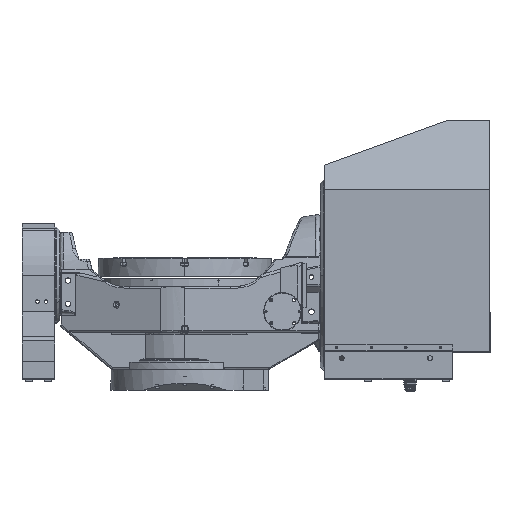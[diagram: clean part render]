
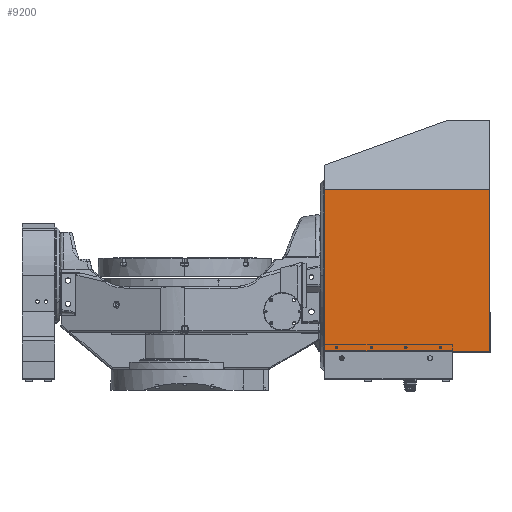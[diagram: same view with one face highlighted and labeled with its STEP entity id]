
A CAD part, top view. The second image highlights one B-rep face of the part: STEP entity #9200.
In plain terms, the highlighted planar face has unit normal (0, 0, 1).
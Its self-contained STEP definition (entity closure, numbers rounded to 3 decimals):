
#601 = EDGE_CURVE ( 'NONE', #70653, #28594, #20387, .T. ) ;
#637 = CIRCLE ( 'NONE', #57160, 3.5 ) ;
#1059 = DIRECTION ( 'NONE',  ( 0., 0., -1. ) ) ;
#1222 = DIRECTION ( 'NONE',  ( -1., 0., 0. ) ) ;
#1698 = EDGE_CURVE ( 'NONE', #18444, #27308, #33033, .T. ) ;
#1907 = CIRCLE ( 'NONE', #73151, 3.5 ) ;
#2275 = EDGE_LOOP ( 'NONE', ( #46743, #17383 ) ) ;
#2414 = ORIENTED_EDGE ( 'NONE', *, *, #33844, .T. ) ;
#3031 = LINE ( 'NONE', #49588, #72654 ) ;
#4437 = CIRCLE ( 'NONE', #26588, 3.5 ) ;
#4512 = VERTEX_POINT ( 'NONE', #75369 ) ;
#5238 = AXIS2_PLACEMENT_3D ( 'NONE', #16338, #5559, #10554 ) ;
#5388 = AXIS2_PLACEMENT_3D ( 'NONE', #14755, #55922, #38197 ) ;
#5559 = DIRECTION ( 'NONE',  ( 0., 0., -1. ) ) ;
#5974 = CARTESIAN_POINT ( 'NONE',  ( 733.4, 170., 448. ) ) ;
#7001 = FACE_BOUND ( 'NONE', #26870, .T. ) ;
#9200 = ADVANCED_FACE ( 'NONE', ( #37382, #13536, #54694, #7001, #25113 ), #13169, .F. ) ;
#9355 = CARTESIAN_POINT ( 'NONE',  ( 880.4, 158., 448. ) ) ;
#9740 = EDGE_LOOP ( 'NONE', ( #41637, #64604 ) ) ;
#10554 = DIRECTION ( 'NONE',  ( -1., 0., 0. ) ) ;
#11099 = VERTEX_POINT ( 'NONE', #21815 ) ;
#11274 = CIRCLE ( 'NONE', #54265, 3.5 ) ;
#11375 = CIRCLE ( 'NONE', #5238, 3.5 ) ;
#12488 = CARTESIAN_POINT ( 'NONE',  ( 433.4, 170., 448. ) ) ;
#13169 = PLANE ( 'NONE',  #47215 ) ;
#13536 = FACE_BOUND ( 'NONE', #9740, .T. ) ;
#14213 = AXIS2_PLACEMENT_3D ( 'NONE', #53762, #1059, #24556 ) ;
#14755 = CARTESIAN_POINT ( 'NONE',  ( 636.9, 170., 448. ) ) ;
#15812 = VERTEX_POINT ( 'NONE', #69354 ) ;
#16338 = CARTESIAN_POINT ( 'NONE',  ( 736.9, 170., 448. ) ) ;
#16739 = CARTESIAN_POINT ( 'NONE',  ( 640.4, 170., 448. ) ) ;
#17383 = ORIENTED_EDGE ( 'NONE', *, *, #34334, .T. ) ;
#18444 = VERTEX_POINT ( 'NONE', #28618 ) ;
#18580 = CARTESIAN_POINT ( 'NONE',  ( 400.4, 158., 448. ) ) ;
#18694 = ORIENTED_EDGE ( 'NONE', *, *, #37736, .F. ) ;
#19239 = EDGE_CURVE ( 'NONE', #4512, #72094, #11375, .T. ) ;
#20356 = CIRCLE ( 'NONE', #14213, 3.5 ) ;
#20387 = CIRCLE ( 'NONE', #63378, 3.5 ) ;
#20778 = EDGE_LOOP ( 'NONE', ( #70091, #75686, #18694, #34611 ) ) ;
#21815 = CARTESIAN_POINT ( 'NONE',  ( 633.4, 170., 448. ) ) ;
#24556 = DIRECTION ( 'NONE',  ( -1., 0., 0. ) ) ;
#25113 = FACE_OUTER_BOUND ( 'NONE', #20778, .T. ) ;
#25782 = DIRECTION ( 'NONE',  ( 0., 0., -1. ) ) ;
#26588 = AXIS2_PLACEMENT_3D ( 'NONE', #68544, #44319, #27398 ) ;
#26870 = EDGE_LOOP ( 'NONE', ( #2414, #44362 ) ) ;
#26885 = CARTESIAN_POINT ( 'NONE',  ( 536.9, 170., 448. ) ) ;
#27308 = VERTEX_POINT ( 'NONE', #56606 ) ;
#27398 = DIRECTION ( 'NONE',  ( -1., 0., 0. ) ) ;
#28594 = VERTEX_POINT ( 'NONE', #29571 ) ;
#28618 = CARTESIAN_POINT ( 'NONE',  ( 400.4, 628., 448. ) ) ;
#28755 = VECTOR ( 'NONE', #62645, 1000. ) ;
#29527 = CARTESIAN_POINT ( 'NONE',  ( 540.4, 170., 448. ) ) ;
#29571 = CARTESIAN_POINT ( 'NONE',  ( 533.4, 170., 448. ) ) ;
#33033 = LINE ( 'NONE', #39164, #28755 ) ;
#33375 = EDGE_CURVE ( 'NONE', #54058, #15812, #637, .T. ) ;
#33844 = EDGE_CURVE ( 'NONE', #72094, #4512, #20356, .T. ) ;
#34334 = EDGE_CURVE ( 'NONE', #37449, #11099, #4437, .T. ) ;
#34611 = ORIENTED_EDGE ( 'NONE', *, *, #64439, .F. ) ;
#34886 = CIRCLE ( 'NONE', #5388, 3.5 ) ;
#37382 = FACE_BOUND ( 'NONE', #50513, .T. ) ;
#37449 = VERTEX_POINT ( 'NONE', #16739 ) ;
#37736 = EDGE_CURVE ( 'NONE', #46419, #63031, #44363, .T. ) ;
#38197 = DIRECTION ( 'NONE',  ( -1., 0., 0. ) ) ;
#38203 = DIRECTION ( 'NONE',  ( -1., 0., 0. ) ) ;
#38313 = ORIENTED_EDGE ( 'NONE', *, *, #33375, .T. ) ;
#38787 = DIRECTION ( 'NONE',  ( 0., 0., -1. ) ) ;
#38904 = ORIENTED_EDGE ( 'NONE', *, *, #48801, .T. ) ;
#39164 = CARTESIAN_POINT ( 'NONE',  ( 400.4, 628., 448. ) ) ;
#41637 = ORIENTED_EDGE ( 'NONE', *, *, #58165, .T. ) ;
#44319 = DIRECTION ( 'NONE',  ( 0., 0., -1. ) ) ;
#44362 = ORIENTED_EDGE ( 'NONE', *, *, #19239, .T. ) ;
#44363 = LINE ( 'NONE', #67833, #51510 ) ;
#45960 = DIRECTION ( 'NONE',  ( 0., 0., -1. ) ) ;
#46221 = CARTESIAN_POINT ( 'NONE',  ( 880.4, 828., 448. ) ) ;
#46419 = VERTEX_POINT ( 'NONE', #9355 ) ;
#46743 = ORIENTED_EDGE ( 'NONE', *, *, #69610, .T. ) ;
#47215 = AXIS2_PLACEMENT_3D ( 'NONE', #53929, #48559, #1222 ) ;
#47332 = CARTESIAN_POINT ( 'NONE',  ( 436.9, 170., 448. ) ) ;
#48559 = DIRECTION ( 'NONE',  ( 0., 0., -1. ) ) ;
#48801 = EDGE_CURVE ( 'NONE', #15812, #54058, #1907, .T. ) ;
#48856 = DIRECTION ( 'NONE',  ( -1., 0., 0. ) ) ;
#49588 = CARTESIAN_POINT ( 'NONE',  ( 400.4, 113., 448. ) ) ;
#50513 = EDGE_LOOP ( 'NONE', ( #38313, #38904 ) ) ;
#50719 = DIRECTION ( 'NONE',  ( -1., 0., 0. ) ) ;
#51510 = VECTOR ( 'NONE', #38203, 1000. ) ;
#53762 = CARTESIAN_POINT ( 'NONE',  ( 736.9, 170., 448. ) ) ;
#53929 = CARTESIAN_POINT ( 'NONE',  ( 878.8, 113., 448. ) ) ;
#54058 = VERTEX_POINT ( 'NONE', #12488 ) ;
#54265 = AXIS2_PLACEMENT_3D ( 'NONE', #26885, #38787, #50719 ) ;
#54694 = FACE_BOUND ( 'NONE', #2275, .T. ) ;
#55922 = DIRECTION ( 'NONE',  ( 0., 0., -1. ) ) ;
#56606 = CARTESIAN_POINT ( 'NONE',  ( 880.4, 628., 448. ) ) ;
#57160 = AXIS2_PLACEMENT_3D ( 'NONE', #47332, #59639, #59252 ) ;
#57765 = LINE ( 'NONE', #46221, #69979 ) ;
#58150 = DIRECTION ( 'NONE',  ( 0., -1., 0. ) ) ;
#58165 = EDGE_CURVE ( 'NONE', #28594, #70653, #11274, .T. ) ;
#59008 = CARTESIAN_POINT ( 'NONE',  ( 436.9, 170., 448. ) ) ;
#59252 = DIRECTION ( 'NONE',  ( -1., 0., 0. ) ) ;
#59639 = DIRECTION ( 'NONE',  ( 0., 0., -1. ) ) ;
#61893 = DIRECTION ( 'NONE',  ( 0., 1., 0. ) ) ;
#62645 = DIRECTION ( 'NONE',  ( 1., 0., 0. ) ) ;
#63031 = VERTEX_POINT ( 'NONE', #18580 ) ;
#63378 = AXIS2_PLACEMENT_3D ( 'NONE', #72686, #25782, #48856 ) ;
#64439 = EDGE_CURVE ( 'NONE', #27308, #46419, #57765, .T. ) ;
#64604 = ORIENTED_EDGE ( 'NONE', *, *, #601, .T. ) ;
#66019 = EDGE_CURVE ( 'NONE', #63031, #18444, #3031, .T. ) ;
#67833 = CARTESIAN_POINT ( 'NONE',  ( 880.4, 158., 448. ) ) ;
#68544 = CARTESIAN_POINT ( 'NONE',  ( 636.9, 170., 448. ) ) ;
#69354 = CARTESIAN_POINT ( 'NONE',  ( 440.4, 170., 448. ) ) ;
#69610 = EDGE_CURVE ( 'NONE', #11099, #37449, #34886, .T. ) ;
#69979 = VECTOR ( 'NONE', #58150, 1000. ) ;
#70091 = ORIENTED_EDGE ( 'NONE', *, *, #1698, .F. ) ;
#70653 = VERTEX_POINT ( 'NONE', #29527 ) ;
#72094 = VERTEX_POINT ( 'NONE', #5974 ) ;
#72654 = VECTOR ( 'NONE', #61893, 1000. ) ;
#72686 = CARTESIAN_POINT ( 'NONE',  ( 536.9, 170., 448. ) ) ;
#73151 = AXIS2_PLACEMENT_3D ( 'NONE', #59008, #45960, #75198 ) ;
#75198 = DIRECTION ( 'NONE',  ( -1., 0., 0. ) ) ;
#75369 = CARTESIAN_POINT ( 'NONE',  ( 740.4, 170., 448. ) ) ;
#75686 = ORIENTED_EDGE ( 'NONE', *, *, #66019, .F. ) ;
